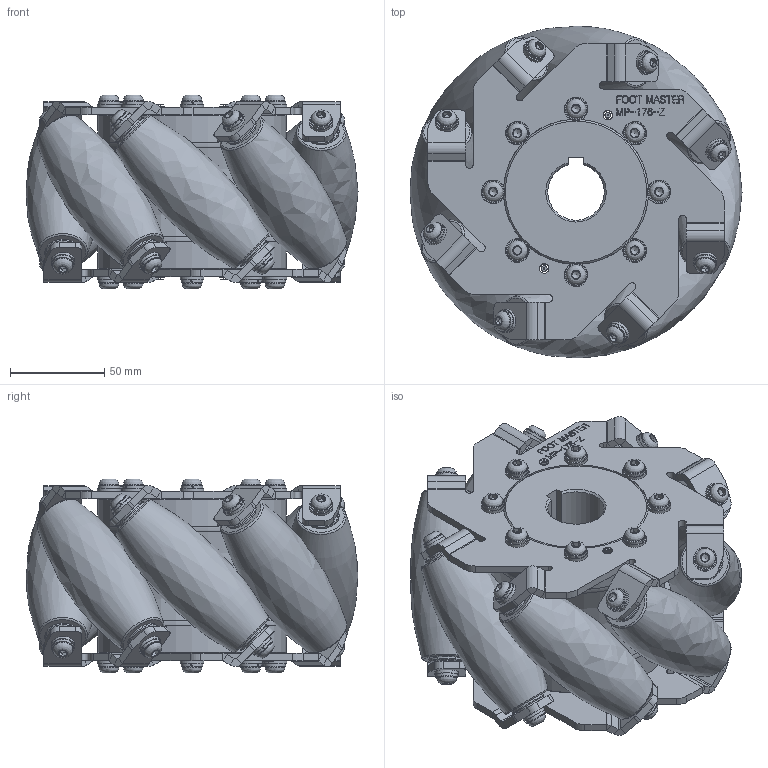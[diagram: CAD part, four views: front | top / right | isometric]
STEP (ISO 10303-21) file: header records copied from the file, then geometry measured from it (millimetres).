
FILE_DESCRIPTION(/* description */ (''),/* implementation_level */ '2;1');
FILE_NAME(/* name */ 'Y:\1.기술연구소\2.연구개발 진행중\122.Mecanum Wheel_2024.11.22\MECHANUM WHEEL MDWP-176-90\04. 전송파일\영업부\20250904\MP-176-Z-HUD.stp',/* time_stamp */ '2025-09-05T11:08:47+09:00',/* author */ ('장용하'),/* organization */ (''),/* preprocessor_version */ 'ST-DEVELOPER v18.1',/* originating_system */ 'Autodesk Inventor 2021',/* authorisation */ '');
FILE_SCHEMA (('AUTOMOTIVE_DESIGN { 1 0 10303 214 3 1 1 }'));
Products named in the file (1): MP-176-Z-HUD
Bounding box: 176 x 176 x 102.8 mm (x, y, z)
Volume: 1413945.3 mm3; surface area: 217635.4 mm2
Topology: 1 solids, 17 shells, 2199 faces, 6069 edges, 4008 vertices
Faces by surface type: plane 1013, bspline 616, cylinder 425, torus 99, cone 46
Full cylindrical faces by diameter (mm): 5 x4, 6 x32, 6.3 x16, 6.6 x32, 10.5 x32, 12.5 x32, 13.8 x16, 18 x16, 19 x32, 77 x2, 100 x2
Entity records: 72383 total; most frequent: CARTESIAN_POINT 19177, ORIENTED_EDGE 12066, DIRECTION 9764, EDGE_CURVE 6033, VERTEX_POINT 4008, AXIS2_PLACEMENT_3D 3559, LINE 2646, VECTOR 2646
